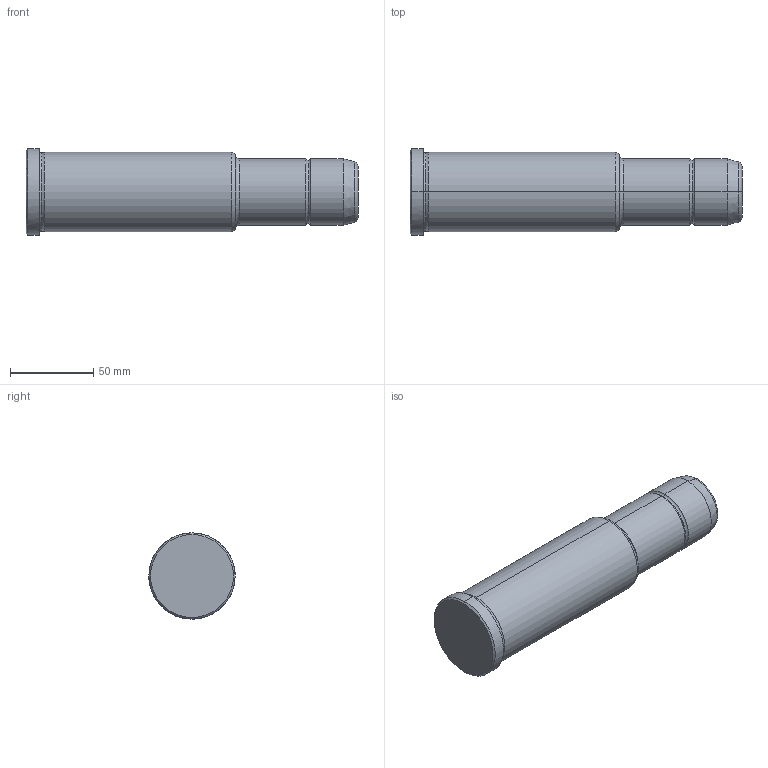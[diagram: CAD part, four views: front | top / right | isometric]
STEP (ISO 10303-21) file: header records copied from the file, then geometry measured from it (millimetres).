
FILE_DESCRIPTION(('CATIA V5 STEP Exchange'),'2;1');
FILE_NAME('C:\Users\Utente\Desktop\IO LAVORO\3D X SITO CF\X SITO\PLASTICA\351\351-40X126X200.stp','2021-11-03T19:15:42+00:00',('none'),('none'),'CATIA Version 5 Release 20 GA (IN-10)','CATIA V5 STEP AP203','none');
FILE_SCHEMA(('CONFIG_CONTROL_DESIGN'));
Length unit declared in the file: millimetre
Products named in the file (1): 351-40X126X200
Bounding box: 200 x 52 x 52 mm (x, y, z)
Volume: 321591.6 mm3; surface area: 32007.7 mm2
Topology: 1 solids, 1 shells, 30 faces, 86 edges, 60 vertices
Faces by surface type: torus 12, cylinder 8, cone 6, plane 4
Entity records: 1112 total; most frequent: CARTESIAN_POINT 289, ORIENTED_EDGE 172, DIRECTION 138, AXIS2_PLACEMENT_3D 95, EDGE_CURVE 86, CIRCLE 64, VERTEX_POINT 60, EDGE_LOOP 32
